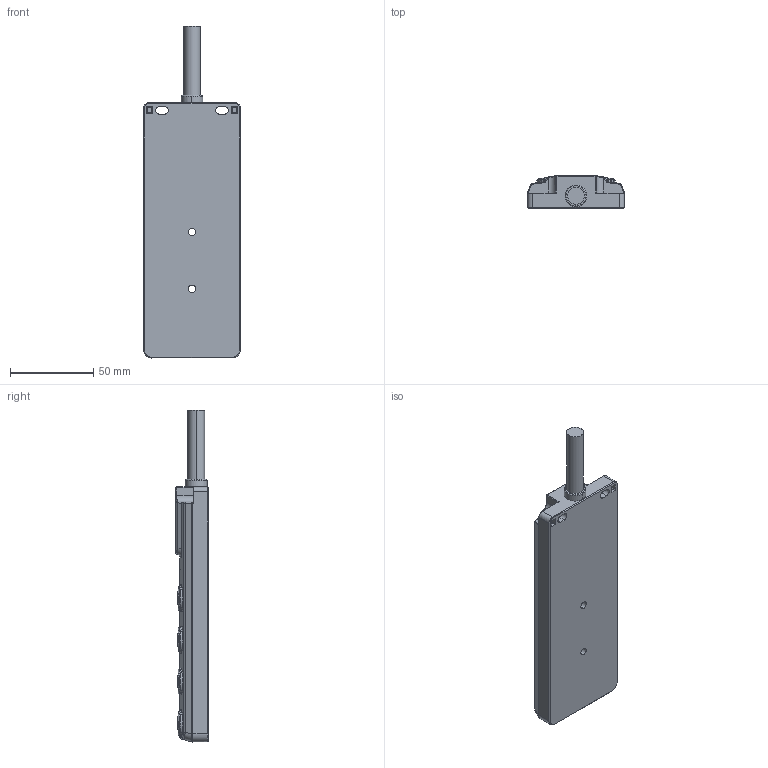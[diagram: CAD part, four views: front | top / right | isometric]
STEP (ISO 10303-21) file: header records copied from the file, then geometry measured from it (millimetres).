
FILE_DESCRIPTION (( 'STEP AP203' ), '1' );
FILE_NAME ('24P801-XXX.STEP', '2023-06-27T06:37:01', ( '' ), ( '' ), 'SwSTEP 2.0', 'SolidWorks 2016', '' );
FILE_SCHEMA (( 'CONFIG_CONTROL_DESIGN' ));
Length unit declared in the file: millimetre
Products named in the file (1): 24P801-XXX
Bounding box: 58 x 19.5 x 199.13 mm (x, y, z)
Volume: 139861.1 mm3; surface area: 41366.5 mm2
Topology: 1 solids, 9 shells, 1949 faces, 5316 edges, 3443 vertices
Faces by surface type: plane 870, cylinder 582, bspline 287, cone 210
Entity records: 86416 total; most frequent: CARTESIAN_POINT 39112, ORIENTED_EDGE 10602, DIRECTION 8715, EDGE_CURVE 5301, VERTEX_POINT 3443, LINE 2989, VECTOR 2989, AXIS2_PLACEMENT_3D 2863
